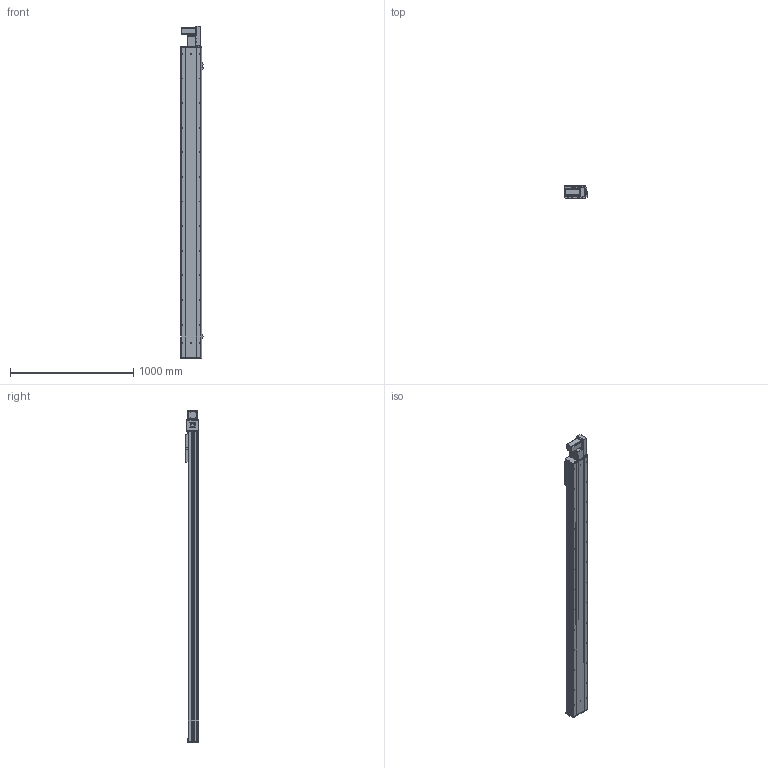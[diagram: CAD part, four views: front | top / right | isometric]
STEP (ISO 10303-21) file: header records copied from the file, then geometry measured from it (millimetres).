
FILE_DESCRIPTION (( 'STEP AP203' ), '1' );
FILE_NAME ('Y170CB-D105-S2200-BR-P400W.STEP', '2020-02-19T09:43:12', ( '微软用户' ), ( '微软中国' ), 'SwSTEP 2.0', 'SolidWorks 2017', '' );
FILE_SCHEMA (( 'CONFIG_CONTROL_DESIGN' ));
Length unit declared in the file: millimetre
Products named in the file (17): 70B喘謫眊----; B-源倛裔啣; 17B-耜蚾蟀諉啣----; 0B-萇儂楊擘啣; san松下电机400不带刹车----; Y70俋欶BR----; 70CB-掛极-; --70CB --喘謫眊楊擘啣-; 70CB-耜裔啣-; 70C--詩湍揤踡え-; 70CB--耜裔; 70C-雄赽釱-奻-; 0C--雄赽釱俋欶-170; 70CB-詩湍--; Y100-135俋离換覜ん--; Y170CB-陔俋离換覜結え---; Y170CB-D105-S2200-BR-P400W
Assembly tree (20 placements, depth 2):
  Y170CB-D105-S2200-BR-P400W
    70B喘謫眊----
    B-源倛裔啣
    17B-耜蚾蟀諉啣----
    0B-萇儂楊擘啣
    san松下电机400不带刹车----
    Y70俋欶BR----
    70CB-掛极-
    --70CB --喘謫眊楊擘啣-
    70CB-耜裔啣-  x2
    70C--詩湍揤踡え-  x2
    70CB--耜裔
    70C-雄赽釱-奻-
    0C--雄赽釱俋欶-170
    70CB-詩湍--
    Y100-135俋离換覜ん--  x3
    Y170CB-陔俋离換覜結え---
Bounding box: 183.5 x 107 x 2697 mm (x, y, z)
Volume: 11257201.4 mm3; surface area: 4054036.9 mm2
Topology: 20 solids, 20 shells, 1041 faces, 2801 edges, 1858 vertices
Faces by surface type: cylinder 555, plane 462, cone 24
Entity records: 33211 total; most frequent: CARTESIAN_POINT 6141, DIRECTION 5404, ORIENTED_EDGE 5084, EDGE_CURVE 2542, AXIS2_PLACEMENT_3D 1985, VERTEX_POINT 1688, VECTOR 1434, LINE 1434
